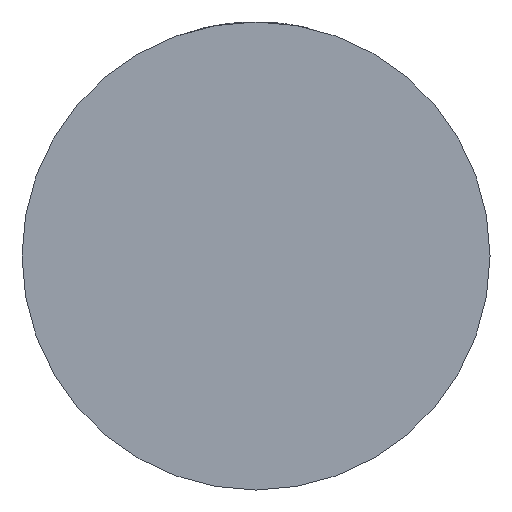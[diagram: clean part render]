
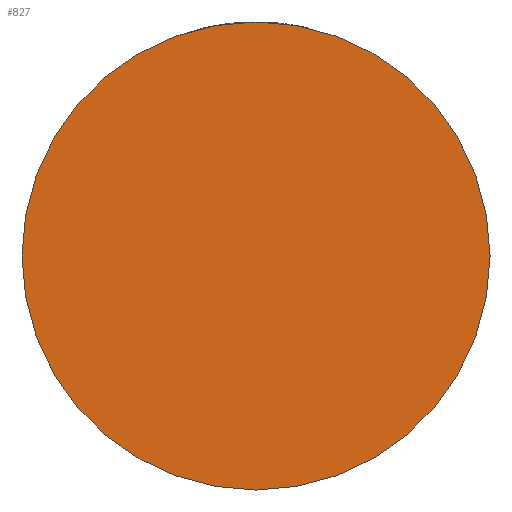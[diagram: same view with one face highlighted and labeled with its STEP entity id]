
A CAD part, front view. The second image highlights one B-rep face of the part: STEP entity #827.
In plain terms, the highlighted planar face has unit normal (0, -1, 0).
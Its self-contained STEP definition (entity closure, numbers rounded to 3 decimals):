
#279 = VERTEX_POINT ( 'NONE', #1898 ) ;
#320 = AXIS2_PLACEMENT_3D ( 'NONE', #2955, #3620, #2290 ) ;
#667 = ORIENTED_EDGE ( 'NONE', *, *, #821, .T. ) ;
#754 = AXIS2_PLACEMENT_3D ( 'NONE', #3751, #2057, #1346 ) ;
#821 = EDGE_CURVE ( 'NONE', #279, #2183, #2675, .T. ) ;
#827 = ADVANCED_FACE ( 'NONE', ( #1068 ), #3019, .T. ) ;
#1068 = FACE_OUTER_BOUND ( 'NONE', #3721, .T. ) ;
#1346 = DIRECTION ( 'NONE',  ( 1., 0., 0. ) ) ;
#1514 = ORIENTED_EDGE ( 'NONE', *, *, #2511, .T. ) ;
#1898 = CARTESIAN_POINT ( 'NONE',  ( 40., -28., 0. ) ) ;
#2057 = DIRECTION ( 'NONE',  ( 0., -1., 0. ) ) ;
#2183 = VERTEX_POINT ( 'NONE', #2984 ) ;
#2290 = DIRECTION ( 'NONE',  ( 1., 0., 0. ) ) ;
#2363 = DIRECTION ( 'NONE',  ( 1., 0., 0. ) ) ;
#2511 = EDGE_CURVE ( 'NONE', #2183, #279, #3386, .T. ) ;
#2675 = CIRCLE ( 'NONE', #754, 40. ) ;
#2955 = CARTESIAN_POINT ( 'NONE',  ( 0., -28., 0. ) ) ;
#2984 = CARTESIAN_POINT ( 'NONE',  ( -40., -28., 0. ) ) ;
#3019 = PLANE ( 'NONE',  #3939 ) ;
#3116 = CARTESIAN_POINT ( 'NONE',  ( 0., -28., 0. ) ) ;
#3386 = CIRCLE ( 'NONE', #320, 40. ) ;
#3404 = DIRECTION ( 'NONE',  ( 0., -1., 0. ) ) ;
#3620 = DIRECTION ( 'NONE',  ( 0., -1., 0. ) ) ;
#3721 = EDGE_LOOP ( 'NONE', ( #1514, #667 ) ) ;
#3751 = CARTESIAN_POINT ( 'NONE',  ( 0., -28., 0. ) ) ;
#3939 = AXIS2_PLACEMENT_3D ( 'NONE', #3116, #3404, #2363 ) ;
